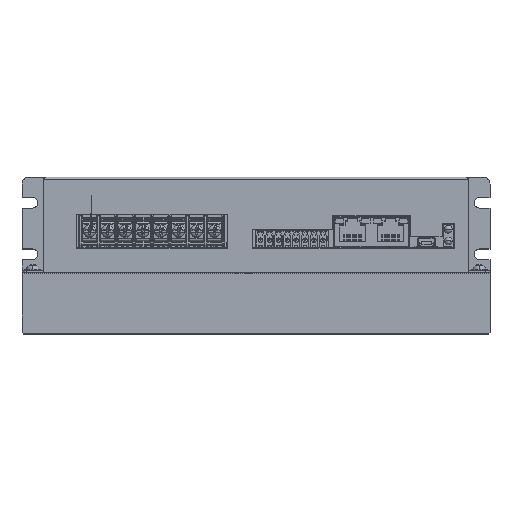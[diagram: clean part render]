
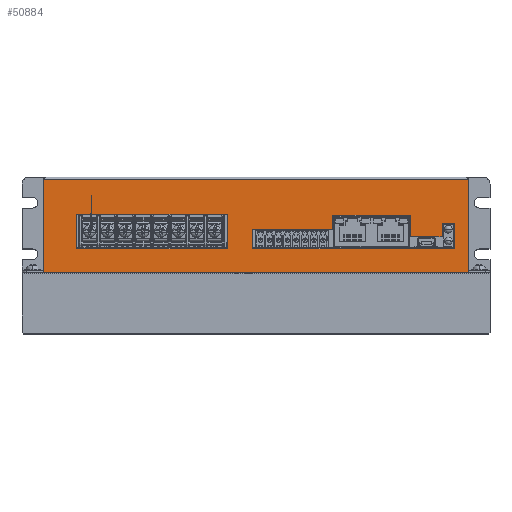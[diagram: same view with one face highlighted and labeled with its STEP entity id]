
A CAD part, top view. The second image highlights one B-rep face of the part: STEP entity #50884.
In plain terms, the highlighted planar face has unit normal (0, 0, 1).
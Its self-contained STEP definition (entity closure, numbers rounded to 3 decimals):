
#6641=DIRECTION('',(0.,1.,0.));
#6642=VECTOR('',#6641,39.9);
#6643=CARTESIAN_POINT('',(190.9,30.006,-0.5));
#6644=LINE('',#6643,#6642);
#6645=DIRECTION('',(1.,0.,0.));
#6646=VECTOR('',#6645,181.8);
#6647=CARTESIAN_POINT('',(9.1,30.006,
-0.5));
#6648=LINE('',#6647,#6646);
#6649=DIRECTION('',(0.,-1.,0.));
#6650=VECTOR('',#6649,39.9);
#6651=CARTESIAN_POINT('',(9.1,69.906,-0.5));
#6652=LINE('',#6651,#6650);
#6653=DIRECTION('',(1.,0.,0.));
#6654=VECTOR('',#6653,34.195);
#6655=CARTESIAN_POINT('',(98.625,48.556,
-0.5));
#6656=LINE('',#6655,#6654);
#6657=DIRECTION('',(0.,1.,0.));
#6658=VECTOR('',#6657,8.15);
#6659=CARTESIAN_POINT('',(98.625,40.406,
-0.5));
#6660=LINE('',#6659,#6658);
#6661=DIRECTION('',(-1.,0.,0.));
#6662=VECTOR('',#6661,86.18);
#6663=CARTESIAN_POINT('',(184.805,40.406,
-0.5));
#6664=LINE('',#6663,#6662);
#6665=DIRECTION('',(0.,-1.,0.));
#6666=VECTOR('',#6665,10.75);
#6667=CARTESIAN_POINT('',(184.805,51.156,
-0.5));
#6668=LINE('',#6667,#6666);
#6669=DIRECTION('',(1.,0.,0.));
#6670=VECTOR('',#6669,5.3);
#6671=CARTESIAN_POINT('',(179.505,51.156,
-0.5));
#6672=LINE('',#6671,#6670);
#6673=DIRECTION('',(0.,1.,0.));
#6674=VECTOR('',#6673,5.65);
#6675=CARTESIAN_POINT('',(179.505,45.506,
-0.5));
#6676=LINE('',#6675,#6674);
#6677=DIRECTION('',(1.,0.,0.));
#6678=VECTOR('',#6677,13.485);
#6679=CARTESIAN_POINT('',(166.02,45.506,
-0.5));
#6680=LINE('',#6679,#6678);
#6681=DIRECTION('',(0.,-1.,0.));
#6682=VECTOR('',#6681,9.2);
#6683=CARTESIAN_POINT('',(166.02,54.706,
-0.5));
#6684=LINE('',#6683,#6682);
#6685=DIRECTION('',(1.,0.,0.));
#6686=VECTOR('',#6685,33.2);
#6687=CARTESIAN_POINT('',(132.82,54.706,
-0.5));
#6688=LINE('',#6687,#6686);
#6689=DIRECTION('',(0.,1.,0.));
#6690=VECTOR('',#6689,6.15);
#6691=CARTESIAN_POINT('',(132.82,48.556,
-0.5));
#6692=LINE('',#6691,#6690);
#6693=DIRECTION('',(0.,1.,0.));
#6694=VECTOR('',#6693,14.6);
#6695=CARTESIAN_POINT('',(23.284,40.406,
-0.5));
#6696=LINE('',#6695,#6694);
#6697=DIRECTION('',(-1.,0.,0.));
#6698=VECTOR('',#6697,64.46);
#6699=CARTESIAN_POINT('',(87.744,40.406,
-0.5));
#6700=LINE('',#6699,#6698);
#6701=DIRECTION('',(0.,-1.,0.));
#6702=VECTOR('',#6701,14.6);
#6703=CARTESIAN_POINT('',(87.744,55.006,
-0.5));
#6704=LINE('',#6703,#6702);
#6705=DIRECTION('',(1.,0.,0.));
#6706=VECTOR('',#6705,64.46);
#6707=CARTESIAN_POINT('',(23.284,55.006,
-0.5));
#6708=LINE('',#6707,#6706);
#6717=DIRECTION('',(-1.,0.,0.));
#6718=VECTOR('',#6717,181.8);
#6719=CARTESIAN_POINT('',(190.9,69.906,-0.5));
#6720=LINE('',#6719,#6718);
#34127=CARTESIAN_POINT('',(9.1,69.906,-0.5));
#34128=CARTESIAN_POINT('',(9.1,30.006,
-0.5));
#34129=VERTEX_POINT('',#34127);
#34130=VERTEX_POINT('',#34128);
#34131=CARTESIAN_POINT('',(190.9,30.006,-0.5));
#34132=VERTEX_POINT('',#34131);
#34133=CARTESIAN_POINT('',(190.9,69.906,-0.5));
#34134=VERTEX_POINT('',#34133);
#35038=CARTESIAN_POINT('',(23.284,40.406,
-0.5));
#35039=CARTESIAN_POINT('',(23.284,55.006,
-0.5));
#35040=VERTEX_POINT('',#35038);
#35041=VERTEX_POINT('',#35039);
#35042=CARTESIAN_POINT('',(87.744,55.006,
-0.5));
#35043=VERTEX_POINT('',#35042);
#35044=CARTESIAN_POINT('',(87.744,40.406,
-0.5));
#35045=VERTEX_POINT('',#35044);
#35046=CARTESIAN_POINT('',(98.625,48.556,
-0.5));
#35047=CARTESIAN_POINT('',(132.82,48.556,
-0.5));
#35048=VERTEX_POINT('',#35046);
#35049=VERTEX_POINT('',#35047);
#35050=CARTESIAN_POINT('',(132.82,54.706,
-0.5));
#35051=VERTEX_POINT('',#35050);
#35052=CARTESIAN_POINT('',(166.02,54.706,
-0.5));
#35053=VERTEX_POINT('',#35052);
#35054=CARTESIAN_POINT('',(166.02,45.506,
-0.5));
#35055=VERTEX_POINT('',#35054);
#35056=CARTESIAN_POINT('',(179.505,45.506,
-0.5));
#35057=VERTEX_POINT('',#35056);
#35058=CARTESIAN_POINT('',(179.505,51.156,
-0.5));
#35059=VERTEX_POINT('',#35058);
#35060=CARTESIAN_POINT('',(184.805,51.156,
-0.5));
#35061=VERTEX_POINT('',#35060);
#35062=CARTESIAN_POINT('',(184.805,40.406,
-0.5));
#35063=VERTEX_POINT('',#35062);
#35064=CARTESIAN_POINT('',(98.625,40.406,
-0.5));
#35065=VERTEX_POINT('',#35064);
#50843=CARTESIAN_POINT('',(9.1,71.006,-0.5));
#50844=DIRECTION('',(0.,0.,1.));
#50845=DIRECTION('',(-1.,0.,0.));
#50846=AXIS2_PLACEMENT_3D('',#50843,#50844,#50845);
#50847=PLANE('',#50846);
#50849=ORIENTED_EDGE('',*,*,#50848,.F.);
#50851=ORIENTED_EDGE('',*,*,#50850,.F.);
#50852=ORIENTED_EDGE('',*,*,#50661,.F.);
#50853=ORIENTED_EDGE('',*,*,#50684,.F.);
#50854=EDGE_LOOP('',(#50849,#50851,#50852,#50853));
#50855=FACE_OUTER_BOUND('',#50854,.F.);
#50857=ORIENTED_EDGE('',*,*,#50856,.F.);
#50859=ORIENTED_EDGE('',*,*,#50858,.F.);
#50861=ORIENTED_EDGE('',*,*,#50860,.F.);
#50863=ORIENTED_EDGE('',*,*,#50862,.F.);
#50865=ORIENTED_EDGE('',*,*,#50864,.F.);
#50867=ORIENTED_EDGE('',*,*,#50866,.F.);
#50869=ORIENTED_EDGE('',*,*,#50868,.F.);
#50871=ORIENTED_EDGE('',*,*,#50870,.F.);
#50873=ORIENTED_EDGE('',*,*,#50872,.F.);
#50875=ORIENTED_EDGE('',*,*,#50874,.F.);
#50876=EDGE_LOOP('',(#50857,#50859,#50861,#50863,#50865,#50867,#50869,#50871,
#50873,#50875));
#50877=FACE_BOUND('',#50876,.F.);
#50878=ORIENTED_EDGE('',*,*,#50767,.F.);
#50879=ORIENTED_EDGE('',*,*,#50789,.F.);
#50880=ORIENTED_EDGE('',*,*,#50810,.F.);
#50881=ORIENTED_EDGE('',*,*,#50830,.F.);
#50882=EDGE_LOOP('',(#50878,#50879,#50880,#50881));
#50883=FACE_BOUND('',#50882,.F.);
#50884=ADVANCED_FACE('',(#50855,#50877,#50883),#50847,.T.);
#50661=EDGE_CURVE('',#34130,#34132,#6648,.T.);
#50684=EDGE_CURVE('',#34129,#34130,#6652,.T.);
#50767=EDGE_CURVE('',#35040,#35041,#6696,.T.);
#50789=EDGE_CURVE('',#35045,#35040,#6700,.T.);
#50810=EDGE_CURVE('',#35043,#35045,#6704,.T.);
#50830=EDGE_CURVE('',#35041,#35043,#6708,.T.);
#50848=EDGE_CURVE('',#34134,#34129,#6720,.T.);
#50850=EDGE_CURVE('',#34132,#34134,#6644,.T.);
#50856=EDGE_CURVE('',#35048,#35049,#6656,.T.);
#50858=EDGE_CURVE('',#35065,#35048,#6660,.T.);
#50860=EDGE_CURVE('',#35063,#35065,#6664,.T.);
#50862=EDGE_CURVE('',#35061,#35063,#6668,.T.);
#50864=EDGE_CURVE('',#35059,#35061,#6672,.T.);
#50866=EDGE_CURVE('',#35057,#35059,#6676,.T.);
#50868=EDGE_CURVE('',#35055,#35057,#6680,.T.);
#50870=EDGE_CURVE('',#35053,#35055,#6684,.T.);
#50872=EDGE_CURVE('',#35051,#35053,#6688,.T.);
#50874=EDGE_CURVE('',#35049,#35051,#6692,.T.);
